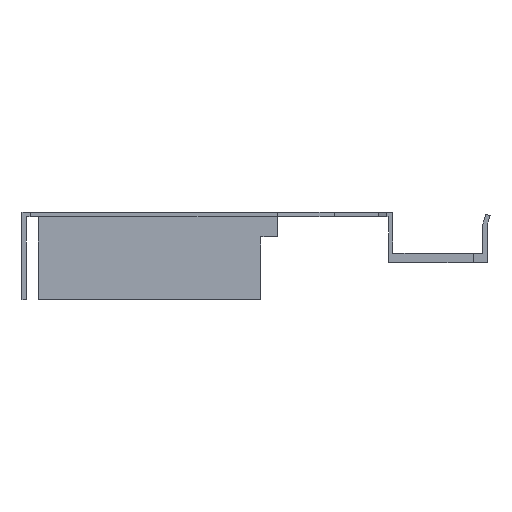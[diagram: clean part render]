
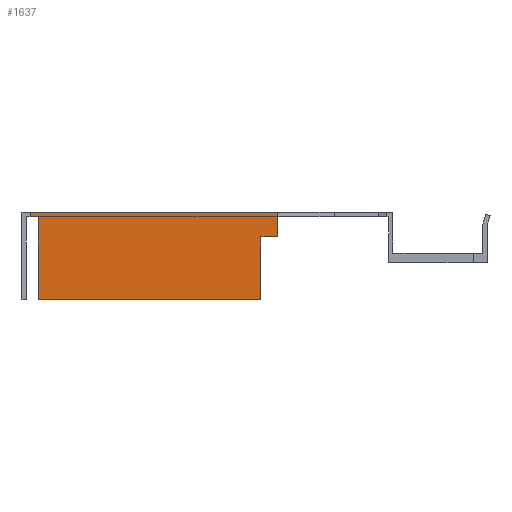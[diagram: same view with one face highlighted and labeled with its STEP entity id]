
A CAD part, left-side view. The second image highlights one B-rep face of the part: STEP entity #1637.
In plain terms, the highlighted planar face has unit normal (-1, 0, 0).
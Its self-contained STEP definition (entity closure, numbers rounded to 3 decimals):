
#10 = EDGE_CURVE ( 'NONE', #446, #621, #941, .T. ) ;
#24 = EDGE_CURVE ( 'NONE', #503, #446, #913, .T. ) ;
#25 = EDGE_CURVE ( 'NONE', #491, #624, #911, .T. ) ;
#27 = EDGE_CURVE ( 'NONE', #576, #503, #1228, .T. ) ;
#28 = EDGE_CURVE ( 'NONE', #564, #434, #1194, .T. ) ;
#29 = EDGE_CURVE ( 'NONE', #621, #624, #922, .T. ) ;
#91 = EDGE_CURVE ( 'NONE', #576, #564, #1440, .T. ) ;
#110 = EDGE_CURVE ( 'NONE', #434, #491, #1478, .T. ) ;
#179 = AXIS2_PLACEMENT_3D ( 'NONE', #387, #378, #377 ) ;
#226 = DIRECTION ( 'NONE',  ( 0., -1., 0. ) ) ;
#228 = DIRECTION ( 'NONE',  ( 0., 0., 1. ) ) ;
#229 = CARTESIAN_POINT ( 'NONE',  ( -915., 66.5, 6.7 ) ) ;
#230 = DIRECTION ( 'NONE',  ( 0., 0., -1. ) ) ;
#231 = CARTESIAN_POINT ( 'NONE',  ( -915., 65., 7.5 ) ) ;
#233 = CARTESIAN_POINT ( 'NONE',  ( -915., 24.2, 3. ) ) ;
#234 = DIRECTION ( 'NONE',  ( 0., 0., -1. ) ) ;
#235 = CARTESIAN_POINT ( 'NONE',  ( -915., 21.2, 0. ) ) ;
#236 = DIRECTION ( 'NONE',  ( 0., -1., 0. ) ) ;
#237 = CARTESIAN_POINT ( 'NONE',  ( -915., 65., -8.5 ) ) ;
#362 = DIRECTION ( 'NONE',  ( 0., 0., 1. ) ) ;
#377 = DIRECTION ( 'NONE',  ( 0., 0., 1. ) ) ;
#378 = DIRECTION ( 'NONE',  ( -1., 0., 0. ) ) ;
#387 = CARTESIAN_POINT ( 'NONE',  ( -915., -16.5, 0. ) ) ;
#392 = PLANE ( 'NONE',  #179 ) ;
#434 = VERTEX_POINT ( 'NONE', #623 ) ;
#446 = VERTEX_POINT ( 'NONE', #616 ) ;
#491 = VERTEX_POINT ( 'NONE', #592 ) ;
#503 = VERTEX_POINT ( 'NONE', #585 ) ;
#529 = CARTESIAN_POINT ( 'NONE',  ( -915., 21.2, 3. ) ) ;
#531 = CARTESIAN_POINT ( 'NONE',  ( -915., 24.2, 3. ) ) ;
#553 = CARTESIAN_POINT ( 'NONE',  ( -915., 65., 6.7 ) ) ;
#559 = CARTESIAN_POINT ( 'NONE',  ( -915., 66.5, 6.7 ) ) ;
#564 = VERTEX_POINT ( 'NONE', #559 ) ;
#576 = VERTEX_POINT ( 'NONE', #553 ) ;
#585 = CARTESIAN_POINT ( 'NONE',  ( -915., 65., -8.5 ) ) ;
#592 = CARTESIAN_POINT ( 'NONE',  ( -915., 21.2, 7.5 ) ) ;
#616 = CARTESIAN_POINT ( 'NONE',  ( -915., 24.2, -8.5 ) ) ;
#621 = VERTEX_POINT ( 'NONE', #531 ) ;
#623 = CARTESIAN_POINT ( 'NONE',  ( -915., 66.5, 7.5 ) ) ;
#624 = VERTEX_POINT ( 'NONE', #529 ) ;
#685 = CARTESIAN_POINT ( 'NONE',  ( -915., 24.2, -8.5 ) ) ;
#742 = DIRECTION ( 'NONE',  ( 0., -1., 0. ) ) ;
#743 = CARTESIAN_POINT ( 'NONE',  ( -915., 0., 7.5 ) ) ;
#780 = DIRECTION ( 'NONE',  ( 0., 1., 0. ) ) ;
#781 = CARTESIAN_POINT ( 'NONE',  ( -915., 0.8, 6.7 ) ) ;
#910 = VECTOR ( 'NONE', #234, 1000. ) ;
#911 = LINE ( 'NONE', #235, #910 ) ;
#912 = VECTOR ( 'NONE', #236, 1000. ) ;
#913 = LINE ( 'NONE', #237, #912 ) ;
#922 = LINE ( 'NONE', #233, #1318 ) ;
#941 = LINE ( 'NONE', #685, #947 ) ;
#947 = VECTOR ( 'NONE', #362, 1000. ) ;
#1117 = ORIENTED_EDGE ( 'NONE', *, *, #110, .F. ) ;
#1118 = ORIENTED_EDGE ( 'NONE', *, *, #25, .F. ) ;
#1119 = ORIENTED_EDGE ( 'NONE', *, *, #29, .T. ) ;
#1120 = ORIENTED_EDGE ( 'NONE', *, *, #10, .T. ) ;
#1121 = ORIENTED_EDGE ( 'NONE', *, *, #24, .T. ) ;
#1122 = ORIENTED_EDGE ( 'NONE', *, *, #27, .T. ) ;
#1123 = ORIENTED_EDGE ( 'NONE', *, *, #91, .F. ) ;
#1124 = ORIENTED_EDGE ( 'NONE', *, *, #28, .F. ) ;
#1194 = LINE ( 'NONE', #229, #1317 ) ;
#1228 = LINE ( 'NONE', #231, #1230 ) ;
#1230 = VECTOR ( 'NONE', #230, 1000. ) ;
#1283 = EDGE_LOOP ( 'NONE', ( #1124, #1123, #1122, #1121, #1120, #1119, #1118, #1117 ) ) ;
#1317 = VECTOR ( 'NONE', #228, 1000. ) ;
#1318 = VECTOR ( 'NONE', #226, 1000. ) ;
#1440 = LINE ( 'NONE', #781, #1441 ) ;
#1441 = VECTOR ( 'NONE', #780, 1000. ) ;
#1478 = LINE ( 'NONE', #743, #1479 ) ;
#1479 = VECTOR ( 'NONE', #742, 1000. ) ;
#1580 = FACE_OUTER_BOUND ( 'NONE', #1283, .T. ) ;
#1637 = ADVANCED_FACE ( 'NONE', ( #1580 ), #392, .T. ) ;
